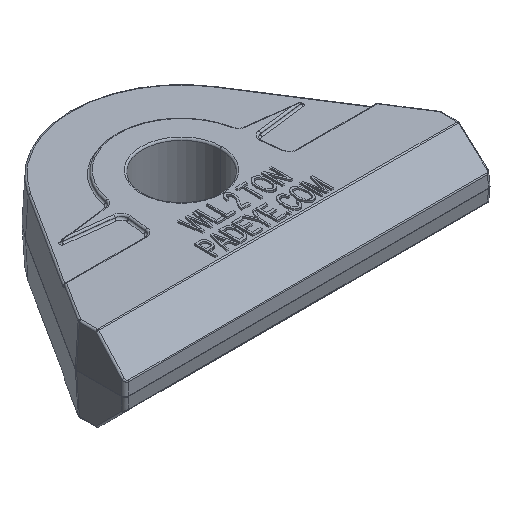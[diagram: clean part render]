
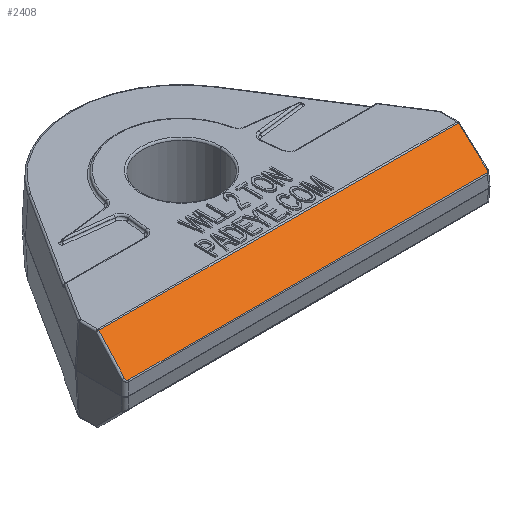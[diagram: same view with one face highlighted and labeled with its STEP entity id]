
A CAD part, isometric view. The second image highlights one B-rep face of the part: STEP entity #2408.
In plain terms, the highlighted planar face has unit normal (0, -0.707, 0.707).
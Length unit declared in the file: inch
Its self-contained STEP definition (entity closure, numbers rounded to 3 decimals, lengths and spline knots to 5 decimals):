
#1430 = CARTESIAN_POINT ( 'NONE',  ( -1.58952, -1.1151, 0.11524 ) ) ;
#2300 = VERTEX_POINT ( 'NONE', #34958 ) ;
#2392 = VERTEX_POINT ( 'NONE', #16717 ) ;
#2408 = ADVANCED_FACE ( 'NONE', ( #8060 ), #36760, .F. ) ;
#3012 = CARTESIAN_POINT ( 'NONE',  ( 1.60367, -1.09929, 0.13105 ) ) ;
#4801 = CARTESIAN_POINT ( 'NONE',  ( 1.60367, -1.09929, 0.13105 ) ) ;
#5009 =( BOUNDED_CURVE ( )  B_SPLINE_CURVE ( 3, ( #4801, #41644, #28658, #15073 ),
 .UNSPECIFIED., .F., .F. ) 
 B_SPLINE_CURVE_WITH_KNOTS ( ( 4, 4 ),
 ( 1.62056, 3.18862 ),
 .UNSPECIFIED. ) 
 CURVE ( )  GEOMETRIC_REPRESENTATION_ITEM ( )  RATIONAL_B_SPLINE_CURVE ( ( 1., 0.805, 0.805, 1. ) ) 
 REPRESENTATION_ITEM ( '' )  );
#5093 = CARTESIAN_POINT ( 'NONE',  ( -1.58952, -1.1151, 0.11524 ) ) ;
#5472 = CARTESIAN_POINT ( 'NONE',  ( -1.60473, -1.11955, 0.11079 ) ) ;
#5495 = VERTEX_POINT ( 'NONE', #3012 ) ;
#8060 = FACE_OUTER_BOUND ( 'NONE', #39952, .T. ) ;
#8271 = CARTESIAN_POINT ( 'NONE',  ( -1.5983, -1.1151, 0.11524 ) ) ;
#8561 = VERTEX_POINT ( 'NONE', #42430 ) ;
#8599 = ORIENTED_EDGE ( 'NONE', *, *, #31832, .T. ) ;
#9593 = LINE ( 'NONE', #11717, #23979 ) ;
#11120 = VECTOR ( 'NONE', #38172, 39.37008 ) ;
#11717 = CARTESIAN_POINT ( 'NONE',  ( 1.5909, -0.85573, 0.37462 ) ) ;
#11834 = AXIS2_PLACEMENT_3D ( 'NONE', #19708, #37057, #16564 ) ;
#12690 = VECTOR ( 'NONE', #18875, 39.37008 ) ;
#13581 = VERTEX_POINT ( 'NONE', #20003 ) ;
#15073 = CARTESIAN_POINT ( 'NONE',  ( 1.58952, -1.1151, 0.11524 ) ) ;
#15237 = VECTOR ( 'NONE', #24407, 39.37008 ) ;
#15871 = LINE ( 'NONE', #5472, #12690 ) ;
#16564 = DIRECTION ( 'NONE',  ( -1., 0., 0. ) ) ;
#16716 = EDGE_CURVE ( 'NONE', #8561, #2392, #15871, .T. ) ;
#16717 = CARTESIAN_POINT ( 'NONE',  ( -1.60367, -1.09929, 0.13105 ) ) ;
#18433 = LINE ( 'NONE', #41403, #15237 ) ;
#18438 = ORIENTED_EDGE ( 'NONE', *, *, #28763, .F. ) ;
#18509 = ORIENTED_EDGE ( 'NONE', *, *, #34218, .F. ) ;
#18875 = DIRECTION ( 'NONE',  ( -0.037, -0.707, -0.707 ) ) ;
#19708 = CARTESIAN_POINT ( 'NONE',  ( -1.625, -1.11917, 0.11117 ) ) ;
#20003 = CARTESIAN_POINT ( 'NONE',  ( 1.58952, -1.1151, 0.11524 ) ) ;
#23786 = EDGE_CURVE ( 'NONE', #5495, #2300, #9593, .T. ) ;
#23979 = VECTOR ( 'NONE', #25298, 39.37008 ) ;
#24407 = DIRECTION ( 'NONE',  ( 1., 0., 0. ) ) ;
#25298 = DIRECTION ( 'NONE',  ( -0.037, 0.707, 0.707 ) ) ;
#28658 = CARTESIAN_POINT ( 'NONE',  ( 1.5983, -1.1151, 0.11524 ) ) ;
#28763 = EDGE_CURVE ( 'NONE', #5495, #13581, #5009, .T. ) ;
#28790 =( BOUNDED_CURVE ( )  B_SPLINE_CURVE ( 3, ( #1430, #8271, #42708, #28850 ),
 .UNSPECIFIED., .F., .F. ) 
 B_SPLINE_CURVE_WITH_KNOTS ( ( 4, 4 ),
 ( 3.09457, 4.66263 ),
 .UNSPECIFIED. ) 
 CURVE ( )  GEOMETRIC_REPRESENTATION_ITEM ( )  RATIONAL_B_SPLINE_CURVE ( ( 1., 0.805, 0.805, 1. ) ) 
 REPRESENTATION_ITEM ( '' )  );
#28850 = CARTESIAN_POINT ( 'NONE',  ( -1.60367, -1.09929, 0.13105 ) ) ;
#29252 = LINE ( 'NONE', #41135, #11120 ) ;
#31490 = VERTEX_POINT ( 'NONE', #5093 ) ;
#31832 = EDGE_CURVE ( 'NONE', #2300, #8561, #29252, .T. ) ;
#34218 = EDGE_CURVE ( 'NONE', #31490, #2392, #28790, .T. ) ;
#34958 = CARTESIAN_POINT ( 'NONE',  ( 1.59111, -0.85974, 0.37061 ) ) ;
#36760 = PLANE ( 'NONE',  #11834 ) ;
#37057 = DIRECTION ( 'NONE',  ( 0., 0.707, -0.707 ) ) ;
#38172 = DIRECTION ( 'NONE',  ( -1., 0., 0. ) ) ;
#38848 = ORIENTED_EDGE ( 'NONE', *, *, #39256, .T. ) ;
#39256 = EDGE_CURVE ( 'NONE', #31490, #13581, #18433, .T. ) ;
#39478 = ORIENTED_EDGE ( 'NONE', *, *, #16716, .T. ) ;
#39952 = EDGE_LOOP ( 'NONE', ( #18438, #43201, #8599, #39478, #18509, #38848 ) ) ;
#41135 = CARTESIAN_POINT ( 'NONE',  ( -1.625, -0.85974, 0.37061 ) ) ;
#41403 = CARTESIAN_POINT ( 'NONE',  ( 1.61917, -1.1151, 0.11524 ) ) ;
#41644 = CARTESIAN_POINT ( 'NONE',  ( 1.60415, -1.10856, 0.12179 ) ) ;
#42430 = CARTESIAN_POINT ( 'NONE',  ( -1.59111, -0.85974, 0.37061 ) ) ;
#42708 = CARTESIAN_POINT ( 'NONE',  ( -1.60415, -1.10856, 0.12179 ) ) ;
#43201 = ORIENTED_EDGE ( 'NONE', *, *, #23786, .T. ) ;
